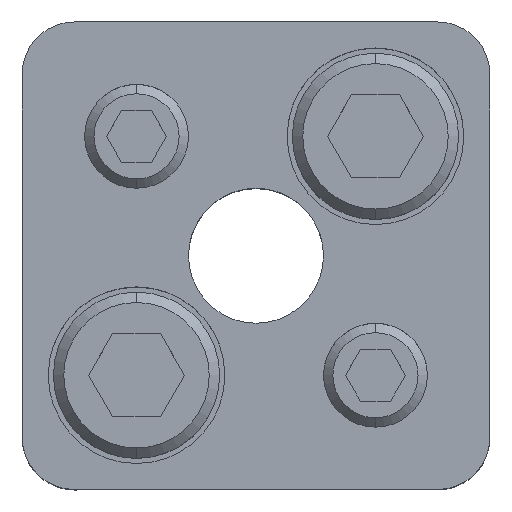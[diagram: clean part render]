
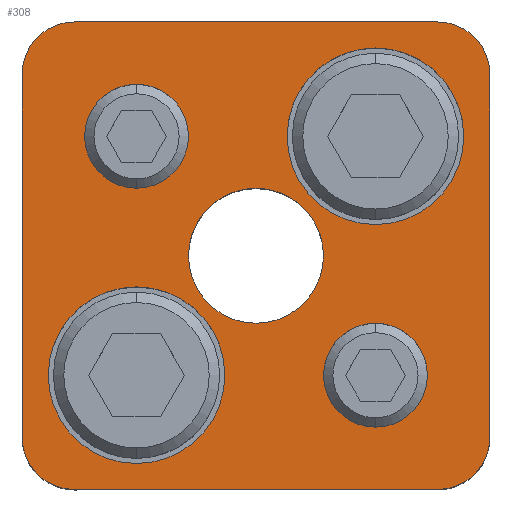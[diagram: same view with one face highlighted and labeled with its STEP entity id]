
A CAD part, top view. The second image highlights one B-rep face of the part: STEP entity #308.
In plain terms, the highlighted planar face has unit normal (0, 0, 1).
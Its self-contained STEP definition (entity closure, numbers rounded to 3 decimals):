
#165=PLANE('',#2567);
#228=FACE_BOUND('',#643,.T.);
#229=FACE_BOUND('',#644,.T.);
#230=FACE_BOUND('',#645,.T.);
#231=FACE_BOUND('',#646,.T.);
#232=FACE_BOUND('',#647,.T.);
#233=FACE_BOUND('',#648,.T.);
#308=ADVANCED_FACE('',(#228,#229,#230,#231,#232,#233),#165,.T.);
#643=EDGE_LOOP('',(#1335,#1336,#1337,#1338,#1339,#1340,#1341,#1342));
#644=EDGE_LOOP('',(#1343,#1344));
#645=EDGE_LOOP('',(#1345,#1346));
#646=EDGE_LOOP('',(#1347,#1348));
#647=EDGE_LOOP('',(#1349,#1350));
#648=EDGE_LOOP('',(#1351,#1352));
#806=LINE('',#3770,#988);
#807=LINE('',#3774,#989);
#808=LINE('',#3778,#990);
#809=LINE('',#3782,#991);
#988=VECTOR('',#3009,1.);
#989=VECTOR('',#3012,1.);
#990=VECTOR('',#3015,1.);
#991=VECTOR('',#3018,1.);
#1335=ORIENTED_EDGE('',*,*,#2102,.T.);
#1336=ORIENTED_EDGE('',*,*,#2103,.T.);
#1337=ORIENTED_EDGE('',*,*,#2104,.T.);
#1338=ORIENTED_EDGE('',*,*,#2105,.T.);
#1339=ORIENTED_EDGE('',*,*,#2106,.T.);
#1340=ORIENTED_EDGE('',*,*,#2107,.T.);
#1341=ORIENTED_EDGE('',*,*,#2108,.T.);
#1342=ORIENTED_EDGE('',*,*,#2109,.T.);
#1343=ORIENTED_EDGE('',*,*,#2110,.F.);
#1344=ORIENTED_EDGE('',*,*,#2111,.F.);
#1345=ORIENTED_EDGE('',*,*,#2112,.F.);
#1346=ORIENTED_EDGE('',*,*,#2113,.F.);
#1347=ORIENTED_EDGE('',*,*,#2088,.F.);
#1348=ORIENTED_EDGE('',*,*,#2084,.F.);
#1349=ORIENTED_EDGE('',*,*,#2082,.F.);
#1350=ORIENTED_EDGE('',*,*,#2078,.F.);
#1351=ORIENTED_EDGE('',*,*,#2114,.T.);
#1352=ORIENTED_EDGE('',*,*,#2115,.T.);
#1837=VERTEX_POINT('',#3718);
#1838=VERTEX_POINT('',#3719);
#1841=VERTEX_POINT('',#3731);
#1842=VERTEX_POINT('',#3732);
#1853=VERTEX_POINT('',#3768);
#1854=VERTEX_POINT('',#3769);
#1855=VERTEX_POINT('',#3771);
#1856=VERTEX_POINT('',#3773);
#1857=VERTEX_POINT('',#3775);
#1858=VERTEX_POINT('',#3777);
#1859=VERTEX_POINT('',#3779);
#1860=VERTEX_POINT('',#3781);
#1861=VERTEX_POINT('',#3784);
#1862=VERTEX_POINT('',#3785);
#1863=VERTEX_POINT('',#3788);
#1864=VERTEX_POINT('',#3789);
#1865=VERTEX_POINT('',#3792);
#1866=VERTEX_POINT('',#3793);
#2078=EDGE_CURVE('',#1837,#1838,#2355,.T.);
#2082=EDGE_CURVE('',#1838,#1837,#2357,.T.);
#2084=EDGE_CURVE('',#1841,#1842,#2359,.T.);
#2088=EDGE_CURVE('',#1842,#1841,#2361,.T.);
#2102=EDGE_CURVE('',#1853,#1854,#2371,.T.);
#2103=EDGE_CURVE('',#1854,#1855,#806,.T.);
#2104=EDGE_CURVE('',#1855,#1856,#2372,.T.);
#2105=EDGE_CURVE('',#1856,#1857,#807,.T.);
#2106=EDGE_CURVE('',#1857,#1858,#2373,.T.);
#2107=EDGE_CURVE('',#1858,#1859,#808,.T.);
#2108=EDGE_CURVE('',#1859,#1860,#2374,.T.);
#2109=EDGE_CURVE('',#1860,#1853,#809,.T.);
#2110=EDGE_CURVE('',#1861,#1862,#2375,.T.);
#2111=EDGE_CURVE('',#1862,#1861,#2376,.T.);
#2112=EDGE_CURVE('',#1863,#1864,#2377,.T.);
#2113=EDGE_CURVE('',#1864,#1863,#2378,.T.);
#2114=EDGE_CURVE('',#1865,#1866,#2379,.T.);
#2115=EDGE_CURVE('',#1866,#1865,#2380,.T.);
#2355=CIRCLE('',#2531,5.);
#2357=CIRCLE('',#2534,5.);
#2359=CIRCLE('',#2538,5.);
#2361=CIRCLE('',#2541,5.);
#2371=CIRCLE('',#2557,5.);
#2372=CIRCLE('',#2558,5.);
#2373=CIRCLE('',#2559,5.);
#2374=CIRCLE('',#2560,5.);
#2375=CIRCLE('',#2561,8.5);
#2376=CIRCLE('',#2562,8.5);
#2377=CIRCLE('',#2563,8.5);
#2378=CIRCLE('',#2564,8.5);
#2379=CIRCLE('',#2565,6.5);
#2380=CIRCLE('',#2566,6.5);
#2531=AXIS2_PLACEMENT_3D('',#3717,#2947,#2948);
#2534=AXIS2_PLACEMENT_3D('',#3726,#2955,#2956);
#2538=AXIS2_PLACEMENT_3D('',#3730,#2963,#2964);
#2541=AXIS2_PLACEMENT_3D('',#3739,#2971,#2972);
#2557=AXIS2_PLACEMENT_3D('',#3767,#3007,#3008);
#2558=AXIS2_PLACEMENT_3D('',#3772,#3010,#3011);
#2559=AXIS2_PLACEMENT_3D('',#3776,#3013,#3014);
#2560=AXIS2_PLACEMENT_3D('',#3780,#3016,#3017);
#2561=AXIS2_PLACEMENT_3D('',#3783,#3019,#3020);
#2562=AXIS2_PLACEMENT_3D('',#3786,#3021,#3022);
#2563=AXIS2_PLACEMENT_3D('',#3787,#3023,#3024);
#2564=AXIS2_PLACEMENT_3D('',#3790,#3025,#3026);
#2565=AXIS2_PLACEMENT_3D('',#3791,#3027,#3028);
#2566=AXIS2_PLACEMENT_3D('',#3794,#3029,#3030);
#2567=AXIS2_PLACEMENT_3D('',#3795,#3031,#3032);
#2947=DIRECTION('',(0.,0.,1.));
#2948=DIRECTION('',(-1.,0.,0.));
#2955=DIRECTION('',(0.,0.,1.));
#2956=DIRECTION('',(1.,0.,0.));
#2963=DIRECTION('',(0.,0.,1.));
#2964=DIRECTION('',(-1.,0.,0.));
#2971=DIRECTION('',(0.,0.,1.));
#2972=DIRECTION('',(1.,0.,0.));
#3007=DIRECTION('',(0.,0.,1.));
#3008=DIRECTION('',(-0.707,0.707,0.));
#3009=DIRECTION('',(0.,1.,0.));
#3010=DIRECTION('',(0.,0.,1.));
#3011=DIRECTION('',(-0.707,-0.707,0.));
#3012=DIRECTION('',(-1.,0.,0.));
#3013=DIRECTION('',(0.,0.,1.));
#3014=DIRECTION('',(0.707,-0.707,0.));
#3015=DIRECTION('',(0.,-1.,0.));
#3016=DIRECTION('',(0.,0.,1.));
#3017=DIRECTION('',(0.707,0.707,0.));
#3018=DIRECTION('',(1.,0.,0.));
#3019=DIRECTION('',(0.,0.,1.));
#3020=DIRECTION('',(1.,0.,0.));
#3021=DIRECTION('',(0.,0.,1.));
#3022=DIRECTION('',(-1.,0.,0.));
#3023=DIRECTION('',(0.,0.,1.));
#3024=DIRECTION('',(1.,0.,0.));
#3025=DIRECTION('',(0.,0.,1.));
#3026=DIRECTION('',(-1.,0.,0.));
#3027=DIRECTION('',(0.,0.,-1.));
#3028=DIRECTION('',(-1.,0.,0.));
#3029=DIRECTION('',(0.,0.,-1.));
#3030=DIRECTION('',(1.,0.,0.));
#3031=DIRECTION('',(0.,0.,1.));
#3032=DIRECTION('',(-1.,0.,0.));
#3717=CARTESIAN_POINT('',(11.5,-11.5,30.));
#3718=CARTESIAN_POINT('',(11.5,-16.5,30.));
#3719=CARTESIAN_POINT('',(11.5,-6.5,30.));
#3726=CARTESIAN_POINT('',(11.5,-11.5,30.));
#3730=CARTESIAN_POINT('',(-11.5,11.5,30.));
#3731=CARTESIAN_POINT('',(-11.5,6.5,30.));
#3732=CARTESIAN_POINT('',(-11.5,16.5,30.));
#3739=CARTESIAN_POINT('',(-11.5,11.5,30.));
#3767=CARTESIAN_POINT('',(17.5,-17.5,30.));
#3768=CARTESIAN_POINT('',(17.5,-22.5,30.));
#3769=CARTESIAN_POINT('',(22.5,-17.5,30.));
#3770=CARTESIAN_POINT('',(22.5,17.5,30.));
#3771=CARTESIAN_POINT('',(22.5,17.5,30.));
#3772=CARTESIAN_POINT('',(17.5,17.5,30.));
#3773=CARTESIAN_POINT('',(17.5,22.5,30.));
#3774=CARTESIAN_POINT('',(-17.5,22.5,30.));
#3775=CARTESIAN_POINT('',(-17.5,22.5,30.));
#3776=CARTESIAN_POINT('',(-17.5,17.5,30.));
#3777=CARTESIAN_POINT('',(-22.5,17.5,30.));
#3778=CARTESIAN_POINT('',(-22.5,17.5,30.));
#3779=CARTESIAN_POINT('',(-22.5,-17.5,30.));
#3780=CARTESIAN_POINT('',(-17.5,-17.5,30.));
#3781=CARTESIAN_POINT('',(-17.5,-22.5,30.));
#3782=CARTESIAN_POINT('',(-17.5,-22.5,30.));
#3783=CARTESIAN_POINT('',(11.5,11.5,30.));
#3784=CARTESIAN_POINT('',(11.5,20.,30.));
#3785=CARTESIAN_POINT('',(11.5,3.,30.));
#3786=CARTESIAN_POINT('',(11.5,11.5,30.));
#3787=CARTESIAN_POINT('',(-11.5,-11.5,30.));
#3788=CARTESIAN_POINT('',(-11.5,-3.,30.));
#3789=CARTESIAN_POINT('',(-11.5,-20.,30.));
#3790=CARTESIAN_POINT('',(-11.5,-11.5,30.));
#3791=CARTESIAN_POINT('',(0.,0.,30.));
#3792=CARTESIAN_POINT('',(0.,6.5,30.));
#3793=CARTESIAN_POINT('',(0.,-6.5,30.));
#3794=CARTESIAN_POINT('',(0.,0.,30.));
#3795=CARTESIAN_POINT('',(17.5,-22.5,30.));
